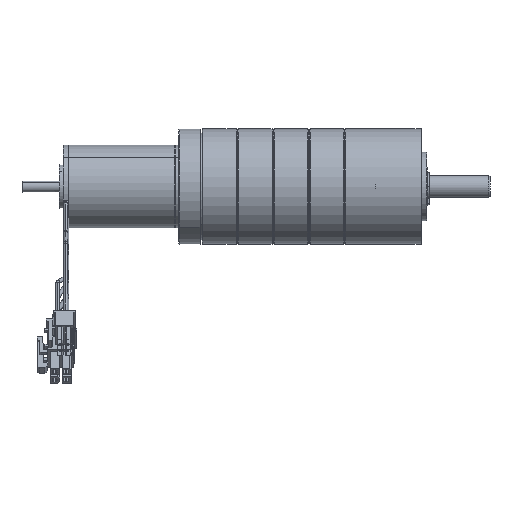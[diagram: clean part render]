
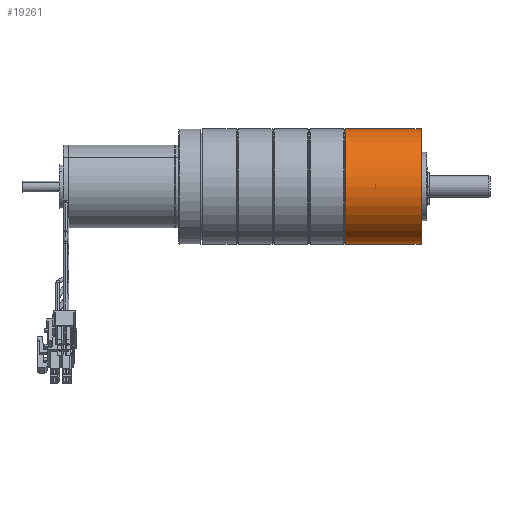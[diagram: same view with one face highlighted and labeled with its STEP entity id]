
A CAD part, front view. The second image highlights one B-rep face of the part: STEP entity #19261.
In plain terms, the highlighted cylindrical face has radius 21 mm (diameter 42 mm), a partial arc.
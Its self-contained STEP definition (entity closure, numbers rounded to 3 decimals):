
#980 = DIRECTION ( 'NONE',  ( 1., 0., 0. ) ) ;
#7877 = DIRECTION ( 'NONE',  ( -1., 0., 0. ) ) ;
#8394 = DIRECTION ( 'NONE',  ( 1., 0., 0. ) ) ;
#9006 = CARTESIAN_POINT ( 'NONE',  ( -3.475, 0., 0. ) ) ;
#9018 = CARTESIAN_POINT ( 'NONE',  ( 25.5, 0., -21. ) ) ;
#10388 = ORIENTED_EDGE ( 'NONE', *, *, #24034, .T. ) ;
#10834 = DIRECTION ( 'NONE',  ( 1., 0., 0. ) ) ;
#11284 = CARTESIAN_POINT ( 'NONE',  ( -2., 0., -21. ) ) ;
#14886 = CARTESIAN_POINT ( 'NONE',  ( 25.5, 0., 21. ) ) ;
#16572 = LINE ( 'NONE', #34046, #43547 ) ;
#19261 = ADVANCED_FACE ( 'NONE', ( #58097 ), #21617, .T. ) ;
#20751 = AXIS2_PLACEMENT_3D ( 'NONE', #59320, #7877, #50964 ) ;
#21526 = EDGE_CURVE ( 'NONE', #42233, #55945, #16572, .T. ) ;
#21617 = CYLINDRICAL_SURFACE ( 'NONE', #43780, 21. ) ;
#24034 = EDGE_CURVE ( 'NONE', #42233, #26431, #38583, .T. ) ;
#24738 = CARTESIAN_POINT ( 'NONE',  ( -2., 0., 0. ) ) ;
#24937 = DIRECTION ( 'NONE',  ( 0., 0., -1. ) ) ;
#25731 = VERTEX_POINT ( 'NONE', #9018 ) ;
#26431 = VERTEX_POINT ( 'NONE', #11284 ) ;
#28400 = CARTESIAN_POINT ( 'NONE',  ( -3.475, 0., -21. ) ) ;
#32402 = CARTESIAN_POINT ( 'NONE',  ( -2., 0., 21. ) ) ;
#32412 = AXIS2_PLACEMENT_3D ( 'NONE', #24738, #980, #24937 ) ;
#33549 = VECTOR ( 'NONE', #46811, 1000. ) ;
#34046 = CARTESIAN_POINT ( 'NONE',  ( -3.475, 0., 21. ) ) ;
#36195 = CIRCLE ( 'NONE', #20751, 21. ) ;
#37102 = EDGE_CURVE ( 'NONE', #26431, #25731, #37978, .T. ) ;
#37978 = LINE ( 'NONE', #28400, #33549 ) ;
#38583 = CIRCLE ( 'NONE', #32412, 21. ) ;
#39567 = ORIENTED_EDGE ( 'NONE', *, *, #37102, .T. ) ;
#41641 = DIRECTION ( 'NONE',  ( 0., 0., -1. ) ) ;
#42233 = VERTEX_POINT ( 'NONE', #32402 ) ;
#43547 = VECTOR ( 'NONE', #10834, 1000. ) ;
#43780 = AXIS2_PLACEMENT_3D ( 'NONE', #9006, #8394, #41641 ) ;
#45994 = EDGE_LOOP ( 'NONE', ( #51260, #10388, #39567, #55649 ) ) ;
#46811 = DIRECTION ( 'NONE',  ( 1., 0., 0. ) ) ;
#48282 = EDGE_CURVE ( 'NONE', #25731, #55945, #36195, .T. ) ;
#50964 = DIRECTION ( 'NONE',  ( 0., 0., -1. ) ) ;
#51260 = ORIENTED_EDGE ( 'NONE', *, *, #21526, .F. ) ;
#55649 = ORIENTED_EDGE ( 'NONE', *, *, #48282, .T. ) ;
#55945 = VERTEX_POINT ( 'NONE', #14886 ) ;
#58097 = FACE_OUTER_BOUND ( 'NONE', #45994, .T. ) ;
#59320 = CARTESIAN_POINT ( 'NONE',  ( 25.5, 0., 0. ) ) ;
